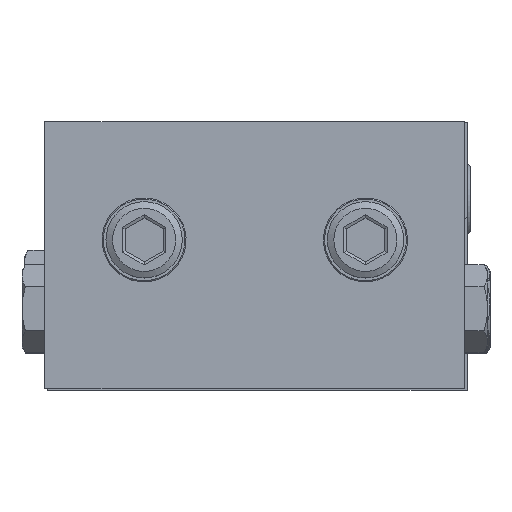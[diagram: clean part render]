
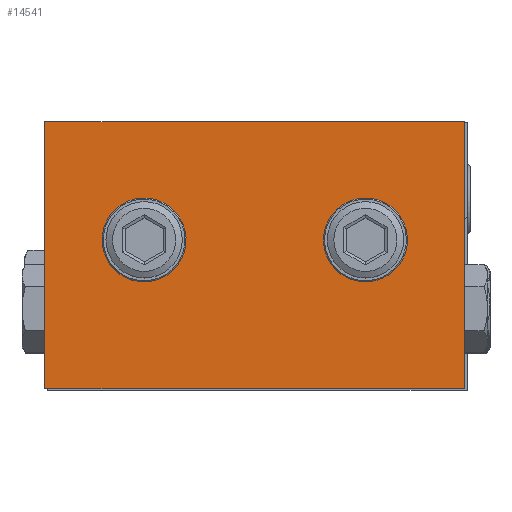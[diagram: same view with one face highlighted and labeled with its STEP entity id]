
A CAD part, top view. The second image highlights one B-rep face of the part: STEP entity #14541.
In plain terms, the highlighted planar face has unit normal (0, 0, 1) as drawn and (0, 0, -1) by its records, which use the part's own axes.
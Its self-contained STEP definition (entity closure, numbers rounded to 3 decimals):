
#485 = CARTESIAN_POINT ( 'NONE',  ( 0., 0., -4.85 ) ) ;
#1057 = EDGE_CURVE ( 'NONE', #36124, #28506, #27667, .T. ) ;
#1080 = DIRECTION ( 'NONE',  ( 0., 1., 0. ) ) ;
#1455 = VECTOR ( 'NONE', #23541, 1000. ) ;
#1554 = ORIENTED_EDGE ( 'NONE', *, *, #1057, .F. ) ;
#1784 = FACE_OUTER_BOUND ( 'NONE', #23751, .T. ) ;
#1847 = ORIENTED_EDGE ( 'NONE', *, *, #18898, .F. ) ;
#1981 = CARTESIAN_POINT ( 'NONE',  ( -27.5, 0., -4.85 ) ) ;
#2063 = VERTEX_POINT ( 'NONE', #15028 ) ;
#2280 = CIRCLE ( 'NONE', #22048, 3.1 ) ;
#2346 = CARTESIAN_POINT ( 'NONE',  ( 14.5, -15.5, -4.85 ) ) ;
#2544 = VECTOR ( 'NONE', #1080, 1000. ) ;
#3078 = CARTESIAN_POINT ( 'NONE',  ( 0., 0., -4.85 ) ) ;
#3160 = CARTESIAN_POINT ( 'NONE',  ( -14.5, -15.5, -4.85 ) ) ;
#3684 = VERTEX_POINT ( 'NONE', #23187 ) ;
#5159 = AXIS2_PLACEMENT_3D ( 'NONE', #3078, #14111, #19557 ) ;
#5216 = DIRECTION ( 'NONE',  ( 1., 0., 0. ) ) ;
#5570 = CARTESIAN_POINT ( 'NONE',  ( -11.4, -15.5, -4.85 ) ) ;
#5877 = EDGE_CURVE ( 'NONE', #3684, #2063, #29212, .T. ) ;
#6874 = CARTESIAN_POINT ( 'NONE',  ( 27.5, 0., -4.85 ) ) ;
#7741 = PLANE ( 'NONE',  #5159 ) ;
#8495 = EDGE_CURVE ( 'NONE', #2063, #36124, #32487, .T. ) ;
#11511 = CARTESIAN_POINT ( 'NONE',  ( 0., -35., -4.85 ) ) ;
#11675 = EDGE_CURVE ( 'NONE', #28506, #3684, #26119, .T. ) ;
#12586 = ORIENTED_EDGE ( 'NONE', *, *, #5877, .F. ) ;
#14111 = DIRECTION ( 'NONE',  ( 0., 0., 1. ) ) ;
#14541 = ADVANCED_FACE ( 'NONE', ( #15980, #27462, #1784 ), #7741, .F. ) ;
#15028 = CARTESIAN_POINT ( 'NONE',  ( 27.5, 0., -4.85 ) ) ;
#15980 = FACE_BOUND ( 'NONE', #19429, .T. ) ;
#17879 = EDGE_CURVE ( 'NONE', #31617, #31617, #2280, .T. ) ;
#18562 = ORIENTED_EDGE ( 'NONE', *, *, #17879, .F. ) ;
#18898 = EDGE_CURVE ( 'NONE', #34820, #34820, #32809, .T. ) ;
#19018 = DIRECTION ( 'NONE',  ( -1., 0., 0. ) ) ;
#19429 = EDGE_LOOP ( 'NONE', ( #1847 ) ) ;
#19557 = DIRECTION ( 'NONE',  ( 1., 0., 0. ) ) ;
#20756 = CARTESIAN_POINT ( 'NONE',  ( 11.4, -15.5, -4.85 ) ) ;
#22048 = AXIS2_PLACEMENT_3D ( 'NONE', #2346, #24669, #19018 ) ;
#22683 = DIRECTION ( 'NONE',  ( 0., 0., -1. ) ) ;
#23187 = CARTESIAN_POINT ( 'NONE',  ( 27.5, -35., -4.85 ) ) ;
#23541 = DIRECTION ( 'NONE',  ( -1., 0., 0. ) ) ;
#23751 = EDGE_LOOP ( 'NONE', ( #31138, #12586, #29102, #1554 ) ) ;
#23863 = AXIS2_PLACEMENT_3D ( 'NONE', #3160, #22683, #5216 ) ;
#24519 = CARTESIAN_POINT ( 'NONE',  ( -27.5, 0., -4.85 ) ) ;
#24669 = DIRECTION ( 'NONE',  ( 0., 0., -1. ) ) ;
#24853 = DIRECTION ( 'NONE',  ( 0., -1., 0. ) ) ;
#26119 = LINE ( 'NONE', #11511, #26935 ) ;
#26935 = VECTOR ( 'NONE', #34358, 1000. ) ;
#27149 = EDGE_LOOP ( 'NONE', ( #18562 ) ) ;
#27462 = FACE_BOUND ( 'NONE', #27149, .T. ) ;
#27667 = LINE ( 'NONE', #1981, #28771 ) ;
#28506 = VERTEX_POINT ( 'NONE', #30335 ) ;
#28771 = VECTOR ( 'NONE', #24853, 1000. ) ;
#29102 = ORIENTED_EDGE ( 'NONE', *, *, #11675, .F. ) ;
#29212 = LINE ( 'NONE', #6874, #2544 ) ;
#30335 = CARTESIAN_POINT ( 'NONE',  ( -27.5, -35., -4.85 ) ) ;
#31138 = ORIENTED_EDGE ( 'NONE', *, *, #8495, .F. ) ;
#31617 = VERTEX_POINT ( 'NONE', #20756 ) ;
#32487 = LINE ( 'NONE', #485, #1455 ) ;
#32809 = CIRCLE ( 'NONE', #23863, 3.1 ) ;
#34358 = DIRECTION ( 'NONE',  ( 1., 0., 0. ) ) ;
#34820 = VERTEX_POINT ( 'NONE', #5570 ) ;
#36124 = VERTEX_POINT ( 'NONE', #24519 ) ;
